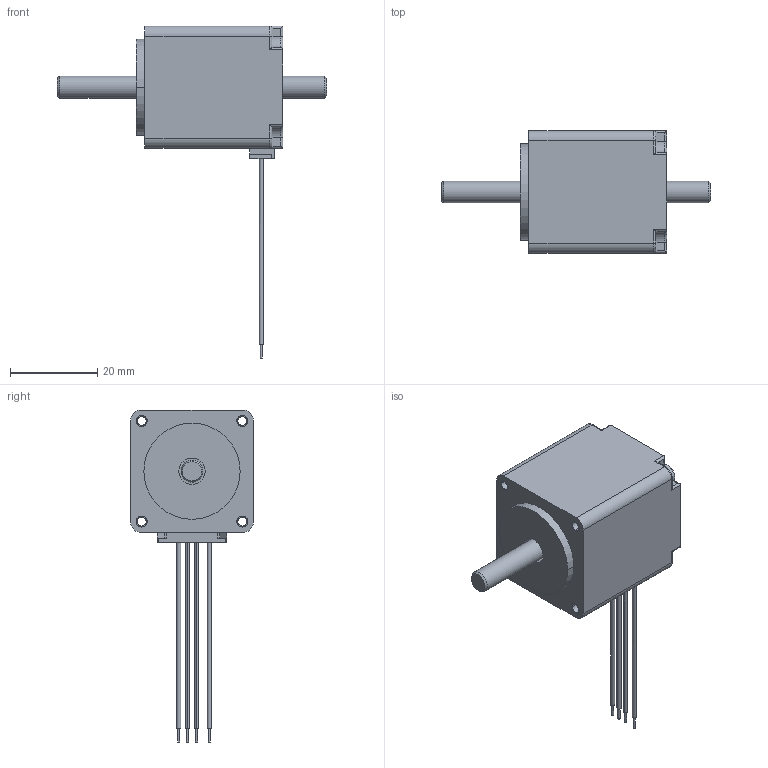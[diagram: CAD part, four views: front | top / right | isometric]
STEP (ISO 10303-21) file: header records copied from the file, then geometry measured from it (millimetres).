
FILE_DESCRIPTION( ('This file contains a STEP AP42 implementation' ,'as created by ZW3D STEP Interface translator.' ,'') ,'2;1' );
FILE_NAME( '28HXXH-0XXXB-XXX_潠趙婦釐.stp' ,'26 114.15 047', (''), ('ZWCAD Software Co.'), 'Version 1.0', 'ZW3D to STEP translator', '' );
FILE_SCHEMA(('AUTOMOTIVE_DESIGN { 1 0 10303 214 1 1 1 1 }'));
Length unit declared in the file: millimetre
Products named in the file (1): 0
Bounding box: 61.55 x 28 x 75.9 mm (x, y, z)
Volume: 15741.3 mm3; surface area: 17686.1 mm2
Topology: 1 solids, 5 shells, 1240 faces, 3981 edges, 2527 vertices
Faces by surface type: plane 708, cylinder 498, torus 23, cone 11
Full cylindrical faces by diameter (mm): 0.5 x7, 1 x2, 1.4 x8, 2.8 x4, 3 x4, 4 x1, 4.2 x1, 5 x2, 6 x2, 7 x1, 8 x2, 8.5 x1, 10 x1, 10.5 x1, 14 x1, 16.9 x1
Entity records: 45650 total; most frequent: CARTESIAN_POINT 8092, ORIENTED_EDGE 7946, DIRECTION 7631, EDGE_CURVE 3981, VECTOR 2667, LINE 2667, VERTEX_POINT 2527, AXIS2_PLACEMENT_3D 2482
